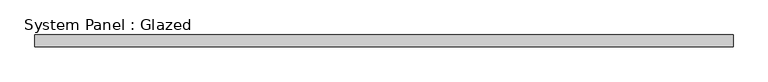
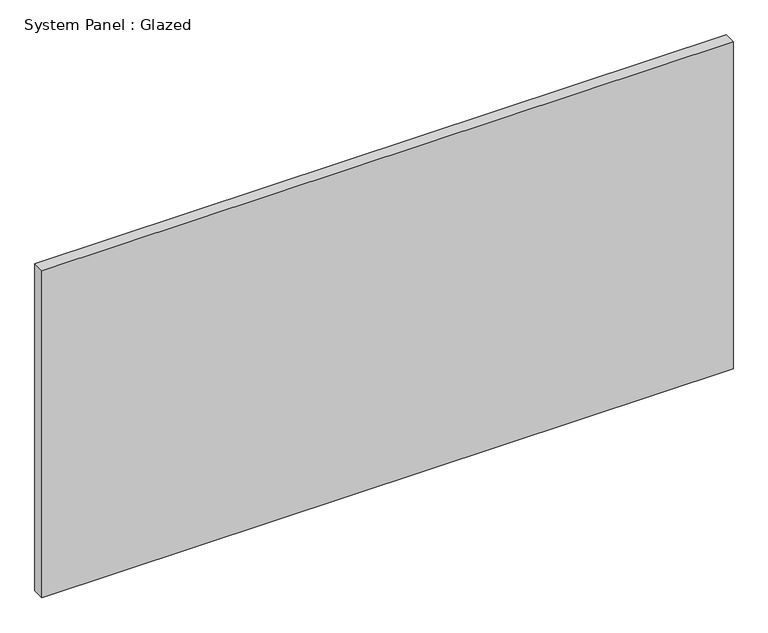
"""IFC4 building model written with IfcOpenShell, lengths in millimetres: plate geometry, System Panel : Glazed."""

from ifc_helpers import new_model, si_unit, origin, origin_with_axes, place, context, project, spatial, polyline, outline, extrude, source, transform, mapped, element, save


def system_panel_glazed_b8137b65(model_context):
    return source(origin(), model_context, "Body", "SweptSolid", [
        extrude(outline(polyline([(995.0, -17.0), (-995.0, -17.0), (-995.0, 17.0), (995.0, 17.0), (995.0, -17.0)])), origin_with_axes(), (0.0, 0.0, 1.0), 995.0),
    ])


if __name__ == "__main__":
    model = new_model("IFC4")
    model_context = context("Model", 3, world=origin())
    ifc_project = project(units=[si_unit("LENGTHUNIT", "METRE", prefix="MILLI")], contexts=[model_context])
    site = spatial("IfcSite", under=ifc_project)
    building = spatial("IfcBuilding", under=site)
    placement = place(None, origin())
    system_panel_glazed_shape = system_panel_glazed_b8137b65(model_context)
    element("IfcPlate", 1, ObjectType="System Panel : Glazed", at=placement, inside=building, context=model_context, shape_type="MappedRepresentation", body=[
        mapped(system_panel_glazed_shape, transform((0.0, 0.0, 0.0), x_axis=(1.0, 0.0, 0.0), y_axis=(0.0, 1.0, 0.0), z_axis=(0.0, 0.0, 1.0))),
    ])
    save(model, "model.ifc")
